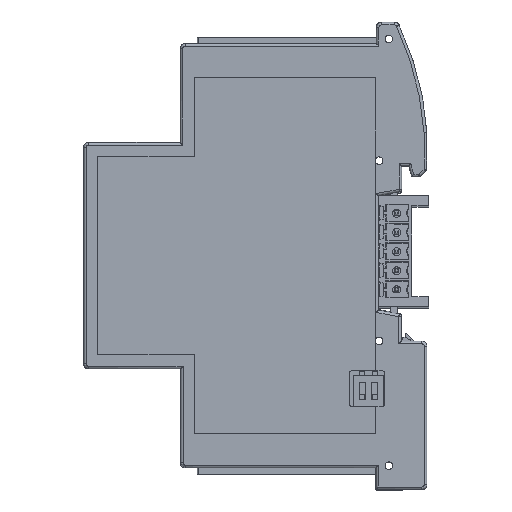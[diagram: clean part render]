
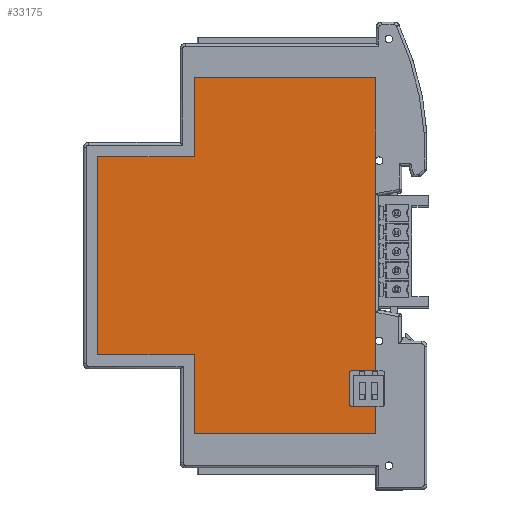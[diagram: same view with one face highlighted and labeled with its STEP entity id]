
A CAD part, top view. The second image highlights one B-rep face of the part: STEP entity #33175.
In plain terms, the highlighted planar face has unit normal (0, 0, 1).
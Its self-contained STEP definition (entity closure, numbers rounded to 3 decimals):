
#2728=LINE('',#53334,#6309);
#2735=LINE('',#53348,#6316);
#2736=LINE('',#53352,#6317);
#2740=LINE('',#53361,#6321);
#2761=LINE('',#53413,#6342);
#2767=LINE('',#53429,#6348);
#2783=LINE('',#53475,#6364);
#2853=LINE('',#53721,#6434);
#2888=LINE('',#53815,#6469);
#2937=LINE('',#54242,#6518);
#2938=LINE('',#54246,#6519);
#2939=LINE('',#54249,#6520);
#2940=LINE('',#54253,#6521);
#2941=LINE('',#54254,#6522);
#6309=VECTOR('',#42258,36.033);
#6316=VECTOR('',#42269,5.515);
#6317=VECTOR('',#42272,35.243);
#6321=VECTOR('',#42278,5.699);
#6342=VECTOR('',#42317,16.225);
#6348=VECTOR('',#42331,36.032);
#6364=VECTOR('',#42367,15.722);
#6434=VECTOR('',#42503,19.262);
#6469=VECTOR('',#42598,39.396);
#6518=VECTOR('',#42747,4.819);
#6519=VECTOR('',#42750,6.2);
#6520=VECTOR('',#42753,4.819);
#6521=VECTOR('',#42758,15.722);
#6522=VECTOR('',#42759,19.262);
#8310=PLANE('',#35621);
#11112=FACE_OUTER_BOUND('',#12988,.T.);
#12988=EDGE_LOOP('',(#28772,#28773,#28774,#28775,#28776,#28777,#28778,#28779,
#28780,#28781,#28782,#28783,#28784,#28785,#28786,#28787,#28788,#28789));
#14189=CIRCLE('',#35622,0.4);
#14190=CIRCLE('',#35623,0.4);
#14191=CIRCLE('',#35624,0.75);
#14192=CIRCLE('',#35625,0.75);
#16483=VERTEX_POINT('',#53327);
#16486=VERTEX_POINT('',#53332);
#16491=VERTEX_POINT('',#53346);
#16492=VERTEX_POINT('',#53350);
#16493=VERTEX_POINT('',#53351);
#16496=VERTEX_POINT('',#53359);
#16497=VERTEX_POINT('',#53360);
#16518=VERTEX_POINT('',#53411);
#16519=VERTEX_POINT('',#53412);
#16525=VERTEX_POINT('',#53427);
#16545=VERTEX_POINT('',#53474);
#16609=VERTEX_POINT('',#53720);
#16638=VERTEX_POINT('',#53814);
#16695=VERTEX_POINT('',#54241);
#16696=VERTEX_POINT('',#54243);
#16697=VERTEX_POINT('',#54245);
#16698=VERTEX_POINT('',#54247);
#16699=VERTEX_POINT('',#54252);
#20621=EDGE_CURVE('',#16483,#16486,#2728,.T.);
#20628=EDGE_CURVE('',#16486,#16491,#2735,.T.);
#20629=EDGE_CURVE('',#16492,#16493,#2736,.T.);
#20633=EDGE_CURVE('',#16496,#16497,#2740,.T.);
#20660=EDGE_CURVE('',#16518,#16519,#2761,.T.);
#20668=EDGE_CURVE('',#16519,#16525,#2767,.T.);
#20691=EDGE_CURVE('',#16545,#16483,#2783,.T.);
#20777=EDGE_CURVE('',#16609,#16545,#2853,.T.);
#20825=EDGE_CURVE('',#16638,#16609,#2888,.T.);
#20904=EDGE_CURVE('',#16491,#16695,#2937,.T.);
#20905=EDGE_CURVE('',#16695,#16696,#14189,.T.);
#20906=EDGE_CURVE('',#16696,#16697,#2938,.T.);
#20907=EDGE_CURVE('',#16697,#16698,#14190,.T.);
#20908=EDGE_CURVE('',#16698,#16496,#2939,.T.);
#20909=EDGE_CURVE('',#16492,#16497,#14191,.T.);
#20910=EDGE_CURVE('',#16518,#16493,#14192,.T.);
#20911=EDGE_CURVE('',#16525,#16699,#2940,.T.);
#20912=EDGE_CURVE('',#16699,#16638,#2941,.T.);
#28772=ORIENTED_EDGE('',*,*,#20628,.T.);
#28773=ORIENTED_EDGE('',*,*,#20904,.T.);
#28774=ORIENTED_EDGE('',*,*,#20905,.T.);
#28775=ORIENTED_EDGE('',*,*,#20906,.T.);
#28776=ORIENTED_EDGE('',*,*,#20907,.T.);
#28777=ORIENTED_EDGE('',*,*,#20908,.T.);
#28778=ORIENTED_EDGE('',*,*,#20633,.T.);
#28779=ORIENTED_EDGE('',*,*,#20909,.F.);
#28780=ORIENTED_EDGE('',*,*,#20629,.T.);
#28781=ORIENTED_EDGE('',*,*,#20910,.F.);
#28782=ORIENTED_EDGE('',*,*,#20660,.T.);
#28783=ORIENTED_EDGE('',*,*,#20668,.T.);
#28784=ORIENTED_EDGE('',*,*,#20911,.T.);
#28785=ORIENTED_EDGE('',*,*,#20912,.T.);
#28786=ORIENTED_EDGE('',*,*,#20825,.T.);
#28787=ORIENTED_EDGE('',*,*,#20777,.T.);
#28788=ORIENTED_EDGE('',*,*,#20691,.T.);
#28789=ORIENTED_EDGE('',*,*,#20621,.T.);
#33175=ADVANCED_FACE('',(#11112),#8310,.F.);
#35621=AXIS2_PLACEMENT_3D('',#54240,#42745,#42746);
#35622=AXIS2_PLACEMENT_3D('',#54244,#42748,#42749);
#35623=AXIS2_PLACEMENT_3D('',#54248,#42751,#42752);
#35624=AXIS2_PLACEMENT_3D('',#54250,#42754,#42755);
#35625=AXIS2_PLACEMENT_3D('',#54251,#42756,#42757);
#42258=DIRECTION('',(1.,0.,0.));
#42269=DIRECTION('',(0.,1.,0.));
#42272=DIRECTION('',(0.,1.,0.));
#42278=DIRECTION('',(0.,1.,0.));
#42317=DIRECTION('',(0.,1.,0.));
#42331=DIRECTION('',(-1.,0.,0.));
#42367=DIRECTION('',(0.,-1.,0.));
#42503=DIRECTION('',(1.,0.,0.));
#42598=DIRECTION('',(0.,-1.,0.));
#42745=DIRECTION('center_axis',(0.,0.,
-1.));
#42746=DIRECTION('ref_axis',(0.,-1.,0.));
#42747=DIRECTION('',(-1.,0.,0.));
#42748=DIRECTION('center_axis',(0.,0.,
-1.));
#42749=DIRECTION('ref_axis',(0.,1.,0.));
#42750=DIRECTION('',(0.,1.,0.));
#42751=DIRECTION('center_axis',(0.,0.,
-1.));
#42752=DIRECTION('ref_axis',(0.,1.,0.));
#42753=DIRECTION('',(1.,0.,0.));
#42754=DIRECTION('center_axis',(0.,0.,
1.));
#42755=DIRECTION('ref_axis',(0.,1.,0.));
#42756=DIRECTION('center_axis',(0.,0.,
1.));
#42757=DIRECTION('ref_axis',(0.,1.,0.));
#42758=DIRECTION('',(0.,-1.,0.));
#42759=DIRECTION('',(-1.,0.,0.));
#53327=CARTESIAN_POINT('',(-12.109,-35.429,4.709));
#53332=CARTESIAN_POINT('',(23.924,-35.429,4.709));
#53334=CARTESIAN_POINT('',(-21.595,-35.429,4.709));
#53346=CARTESIAN_POINT('',(23.924,-29.915,4.709));
#53348=CARTESIAN_POINT('',(23.924,-55.365,4.709));
#53350=CARTESIAN_POINT('',(23.924,-16.636,4.709));
#53351=CARTESIAN_POINT('',(23.924,18.606,4.709));
#53352=CARTESIAN_POINT('',(23.924,-55.365,4.709));
#53359=CARTESIAN_POINT('',(23.924,-22.915,4.709));
#53360=CARTESIAN_POINT('',(23.924,-17.216,4.709));
#53361=CARTESIAN_POINT('',(23.924,-55.365,4.709));
#53411=CARTESIAN_POINT('',(23.924,19.186,4.709));
#53412=CARTESIAN_POINT('',(23.924,35.411,4.709));
#53413=CARTESIAN_POINT('',(23.924,-55.365,4.709));
#53427=CARTESIAN_POINT('',(-12.109,35.411,4.709));
#53429=CARTESIAN_POINT('',(23.924,35.411,4.709));
#53474=CARTESIAN_POINT('',(-12.109,-19.707,4.709));
#53475=CARTESIAN_POINT('',(-12.109,-66.469,4.709));
#53720=CARTESIAN_POINT('',(-31.371,-19.707,4.709));
#53721=CARTESIAN_POINT('',(5.907,-19.707,4.709));
#53814=CARTESIAN_POINT('',(-31.371,19.689,4.709));
#53815=CARTESIAN_POINT('',(-31.371,-65.524,4.709));
#54240=CARTESIAN_POINT('Origin',(23.924,-110.429,4.709));
#54241=CARTESIAN_POINT('',(19.105,-29.915,4.709));
#54242=CARTESIAN_POINT('',(23.924,-29.915,4.709));
#54243=CARTESIAN_POINT('',(18.705,-29.515,4.709));
#54244=CARTESIAN_POINT('Origin',(19.105,-29.515,4.709));
#54245=CARTESIAN_POINT('',(18.705,-23.315,4.709));
#54246=CARTESIAN_POINT('',(18.705,-110.429,4.709));
#54247=CARTESIAN_POINT('',(19.105,-22.915,4.709));
#54248=CARTESIAN_POINT('Origin',(19.105,-23.315,4.709));
#54249=CARTESIAN_POINT('',(23.924,-22.915,4.709));
#54250=CARTESIAN_POINT('Origin',(24.616,-16.926,4.709));
#54251=CARTESIAN_POINT('Origin',(24.616,18.896,4.709));
#54252=CARTESIAN_POINT('',(-12.109,19.689,4.709));
#54253=CARTESIAN_POINT('',(-12.109,-43.969,4.709));
#54254=CARTESIAN_POINT('',(-3.689,19.689,4.709));
